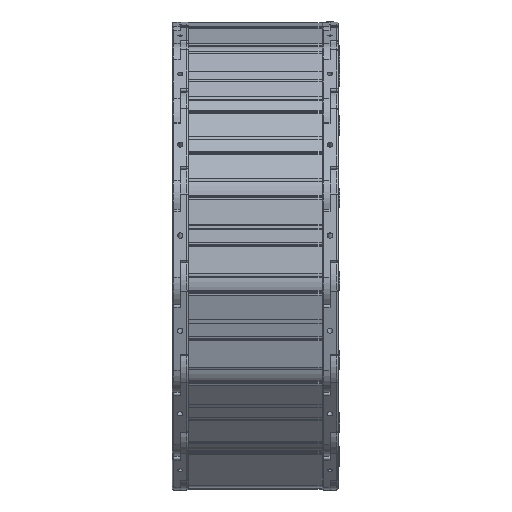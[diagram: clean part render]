
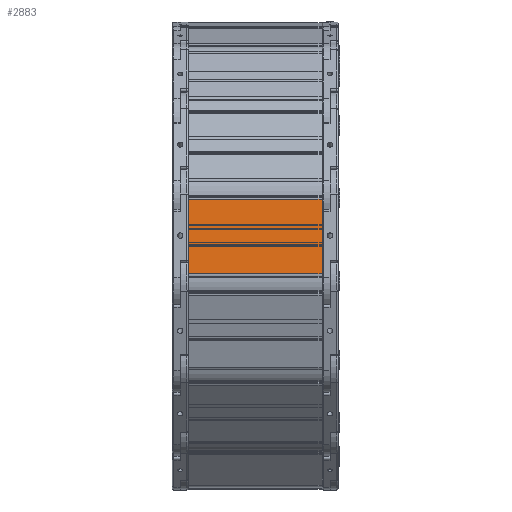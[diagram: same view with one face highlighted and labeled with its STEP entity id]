
A CAD part, front view. The second image highlights one B-rep face of the part: STEP entity #2883.
In plain terms, the highlighted planar face has unit normal (0, -0.994, 0.108) as drawn and (0, -1, 0) by its records, which use the part's own axes.
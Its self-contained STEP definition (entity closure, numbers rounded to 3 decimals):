
#2825=CARTESIAN_POINT('',(241.516,138.907,200.0));
#2826=VERTEX_POINT('',#2825);
#2834=CARTESIAN_POINT('',(241.516,138.907,0.0));
#2835=VERTEX_POINT('',#2834);
#2836=CARTESIAN_POINT('',(241.516,138.907,0.0));
#2837=DIRECTION('',(0.0,0.0,1.0));
#2838=VECTOR('',#2837,200.0);
#2839=LINE('',#2836,#2838);
#2840=EDGE_CURVE('',#2835,#2826,#2839,.T.);
#2853=CARTESIAN_POINT('',(241.516,138.907,0.0));
#2854=DIRECTION('',(0.0,-1.0,0.0));
#2855=DIRECTION('',(0.0,0.0,-1.0));
#2856=AXIS2_PLACEMENT_3D('',#2853,#2854,#2855);
#2857=PLANE('',#2856);
#2858=CARTESIAN_POINT('',(129.016,138.907,200.0));
#2859=VERTEX_POINT('',#2858);
#2860=CARTESIAN_POINT('',(241.516,138.907,200.0));
#2861=DIRECTION('',(-1.0,0.0,0.0));
#2862=VECTOR('',#2861,112.5);
#2863=LINE('',#2860,#2862);
#2864=EDGE_CURVE('',#2826,#2859,#2863,.T.);
#2865=ORIENTED_EDGE('',*,*,#2864,.T.);
#2866=CARTESIAN_POINT('',(129.016,138.907,0.0));
#2867=VERTEX_POINT('',#2866);
#2868=CARTESIAN_POINT('',(129.016,138.907,0.0));
#2869=DIRECTION('',(0.0,0.0,1.0));
#2870=VECTOR('',#2869,200.0);
#2871=LINE('',#2868,#2870);
#2872=EDGE_CURVE('',#2867,#2859,#2871,.T.);
#2873=ORIENTED_EDGE('',*,*,#2872,.F.);
#2874=CARTESIAN_POINT('',(129.016,138.907,0.0));
#2875=DIRECTION('',(1.0,0.0,0.0));
#2876=VECTOR('',#2875,112.5);
#2877=LINE('',#2874,#2876);
#2878=EDGE_CURVE('',#2867,#2835,#2877,.T.);
#2879=ORIENTED_EDGE('',*,*,#2878,.T.);
#2880=ORIENTED_EDGE('',*,*,#2840,.T.);
#2881=EDGE_LOOP('',(#2865,#2873,#2879,#2880));
#2882=FACE_OUTER_BOUND('',#2881,.T.);
#2883=ADVANCED_FACE('',(#2882),#2857,.T.);
